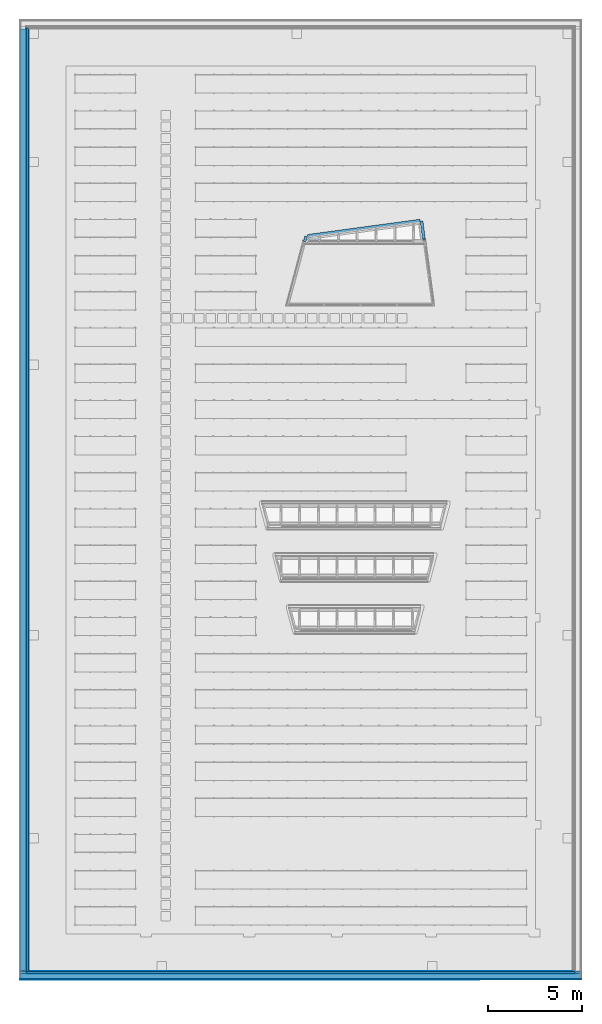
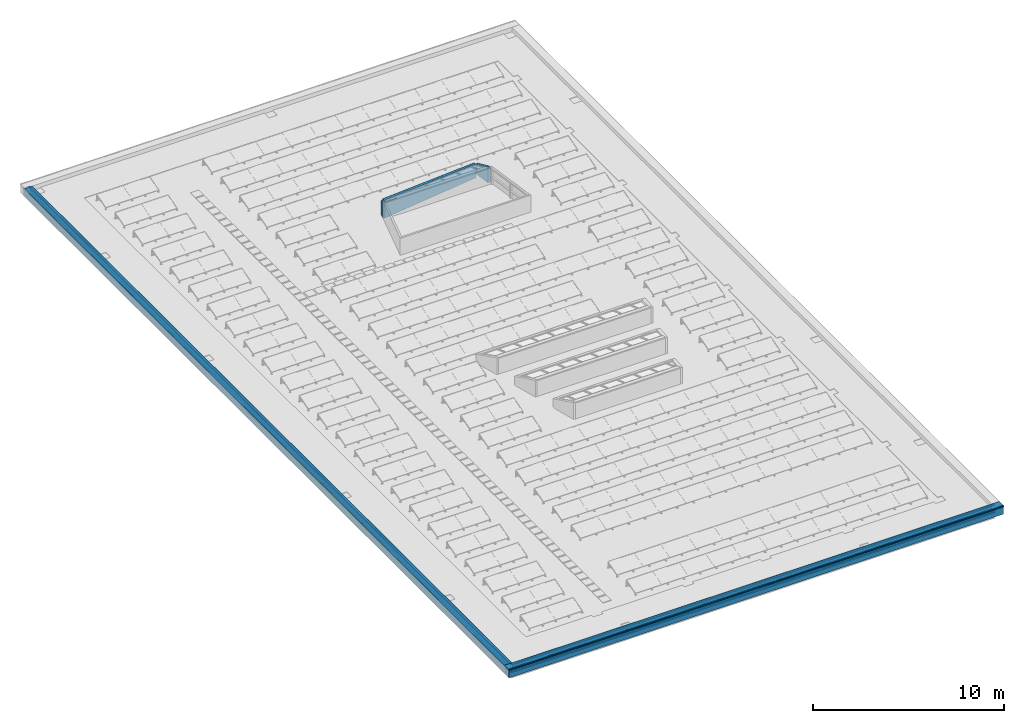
# One storey, part 8 of 20: 17 building element parts, 3 walls, 1 plate, 3 openings, 3 elements without a shape of their own.
"""IFC2X3 building model written with IfcOpenShell, lengths in millimetres."""

from ifc_helpers import new_model, entity, si_unit, converted_unit, derived_unit, money_unit, direction, frame, origin_with_axes, place, context, subcontext, project, spatial, faceted_brep, material, type_object, element, aggregate, save


model = new_model("IFC2X3")

# Units and contexts
model_context = context("Model", 3, precision=0.01, world=origin_with_axes(), true_north=direction((0.0, 1.0)))
plan_context = context("Plan", 3, precision=0.01, world=origin_with_axes(), true_north=direction((0.0, 1.0)))
body_context = subcontext(model_context, "Body", "Model", "MODEL_VIEW")
ifc_project = project(units=[si_unit("LENGTHUNIT", "METRE", prefix="MILLI"), si_unit("AREAUNIT", "SQUARE_METRE"), si_unit("VOLUMEUNIT", "CUBIC_METRE"), converted_unit("PLANEANGLEUNIT", "DEGREE", entity("IfcPlaneAngleMeasure", 0.0174532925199), si_unit("PLANEANGLEUNIT", "RADIAN"), dimensions=[0, 0, 0, 0, 0, 0, 0]), si_unit("SOLIDANGLEUNIT", "STERADIAN"), money_unit("EUR"), converted_unit("TIMEUNIT", "Year", entity("IfcTimeMeasure", 31556926.0), si_unit("TIMEUNIT", "SECOND"), dimensions=[0, 0, 1, 0, 0, 0, 0]), si_unit("MASSUNIT", "GRAM", prefix="KILO"), si_unit("THERMODYNAMICTEMPERATUREUNIT", "DEGREE_CELSIUS"), si_unit("LUMINOUSINTENSITYUNIT", "LUMEN"), si_unit("ENERGYUNIT", "JOULE", prefix="MEGA"), derived_unit("THERMALCONDUCTANCEUNIT", [(si_unit("POWERUNIT", "WATT"), 1), (si_unit("LENGTHUNIT", "METRE"), -1), (si_unit("THERMODYNAMICTEMPERATUREUNIT", "KELVIN"), -1)]), derived_unit("SPECIFICHEATCAPACITYUNIT", [(si_unit("ENERGYUNIT", "JOULE"), 1), (si_unit("MASSUNIT", "GRAM", prefix="KILO"), -1), (si_unit("THERMODYNAMICTEMPERATUREUNIT", "KELVIN"), -1)]), derived_unit("MASSDENSITYUNIT", [(si_unit("MASSUNIT", "GRAM", prefix="KILO"), 1), (si_unit("VOLUMEUNIT", "CUBIC_METRE"), -1)])], contexts=[model_context, plan_context])

# Site, building, storey
site_placement = place(None, origin_with_axes())
site = spatial("IfcSite", under=ifc_project, at=site_placement, Name="Site", CompositionType="ELEMENT")
building_placement = place(site_placement, origin_with_axes())
building = spatial("IfcBuilding", under=site, at=building_placement, Name="Naam gebouw", CompositionType="ELEMENT")
storey_placement = place(building_placement, frame((0.0, 0.0, 7920.0), z_axis=(0.0, 0.0, 1.0), x_axis=(1.0, 0.0, 0.0)))
storey = spatial("IfcBuildingStorey", under=building, at=storey_placement, Name="2e verdieping", CompositionType="ELEMENT", Elevation=7920.0)

# Curtain wall, plate
curtain_wall_type = type_object("IfcCurtainWallType", Name="Curtain Wall Type", PredefinedType="NOTDEFINED")
curtain_wall_placement = place(storey_placement, frame((19106.1234546, 39361.8774302, 819.822664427), z_axis=(0.0, 0.0, 1.0), x_axis=(1.0, 0.0, 0.0)))
curtain_wall = element("IfcCurtainWall", 1, at=curtain_wall_placement, inside=storey, type_object=curtain_wall_type, Name="21_Vliesgevel_Wand-x")
ifc_material_1 = material(Name="Glas")
plate_type = type_object("IfcPlateType", Name="Main Panel 634 x 244 x 20", PredefinedType="CURTAIN_PANEL")
plate_placement = place(curtain_wall_placement, frame((-3838.29655747, -258.845975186, 330.7904772), z_axis=(0.0, 0.0, 1.0), x_axis=(-1.0, 0.0, 0.0)))
plate = element("IfcPlate", 2, at=plate_placement, type_object=plate_type, material=ifc_material_1, Name="_Vliesgevel - paneel_Paneel-x", ObjectType="CURTAIN_PANEL", context=body_context, shape_type="Brep", body=[
    faceted_brep([(-328.296558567, 97.3713573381, 24.7984980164), (-328.296558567, 90.5309544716, 43.5923504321), (306.061137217, 90.5309544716, 43.5923504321), (306.061137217, 97.3713573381, 24.7984980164), (-328.296558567, -132.348207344, -58.8125857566), (-328.296558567, -139.188610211, -40.0187333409), (266.078231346, -58.6873587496, -10.7186739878), (266.078231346, -51.8469558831, -29.5125264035)], [[[0, 1, 2, 3]], [[4, 5, 1, 0]], [[1, 5, 6, 2]], [[3, 2, 6, 7]], [[0, 3, 7, 4]], [[7, 6, 5, 4]]]),
])
aggregate(curtain_wall, [plate])

# Wall, opening
ifc_material_2 = material(Name="_TenW_24_Hout - Multiplex")
wall_type_1 = type_object("IfcWallType", Name="_TenW_24_Hout - Multiplex 150", PredefinedType="NOTDEFINED")
wall_1_placement = place(storey_placement, frame((20936.9983091, 40136.1170158, 0.0), z_axis=(0.0, 0.0, 1.0), x_axis=(-0.990952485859, -0.134213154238, 0.0)))
wall_1 = element("IfcWall", 3, at=wall_1_placement, inside=storey, type_object=wall_type_1, material=ifc_material_2, Name="21_Wand_Wand-x", context=body_context, shape_type="Brep", body=[
    faceted_brep([(0.0, 0.0, 879.454298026), (0.0, 150.0, 879.454298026), (0.0, 150.0, 0.0), (-7.09540870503e-07, 123.260462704, 0.0), (-7.09540870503e-07, 123.260462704, 245.0), (0.0, 0.0, 245.0), (6046.07914793, 150.0, 1167.16690939), (6046.07914793, 0.0, 1167.16690939), (6046.07914793, 150.0, 0.0), (6046.07914793, 123.260478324, 0.0), (6046.07914793, 123.260478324, 245.0), (6046.07914793, 0.0, 245.0)], [[[0, 1, 2, 3, 4, 5]], [[6, 1, 0, 7]], [[1, 6, 8, 2]], [[9, 3, 2, 8]], [[10, 4, 3, 9]], [[5, 4, 10, 11]], [[7, 0, 5, 11]], [[6, 7, 11, 10, 9, 8]]]),
])
opening_1_placement = place(wall_1_placement, frame((4870.53605598, 0.0, 851.085276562), z_axis=(0.0, 0.0, 1.0), x_axis=(1.0, 0.0, 0.0)))
element("IfcOpeningElement", 4, at=opening_1_placement, cuts=wall_1, Name="31_Raam_-", context=body_context, shape_type="Brep", body=[
    faceted_brep([(5466.69118562, 150.0, 520.282966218), (-5466.69118562, 150.0, 520.282966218), (-5466.69118562, -150.0, 520.282966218), (5466.69118562, -150.0, 520.282966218), (-5466.69118562, 150.0, 0.0), (-5466.69118562, -150.0, 0.0)], [[[0, 1, 2, 3]], [[0, 4, 1]], [[1, 4, 5, 2]], [[3, 2, 5]], [[4, 0, 3, 5]]]),
])

wall_2_placement = place(storey_placement, frame((20951.3858861, 40029.8874494, 0.0), z_axis=(0.0, 0.0, 1.0), x_axis=(0.134213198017, -0.990952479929, 0.0)))
wall_2 = element("IfcWall", 5, at=wall_2_placement, inside=storey, type_object=wall_type_1, material=ifc_material_2, Name="21_Wand_Wand-x", context=body_context, shape_type="Brep", body=[
    faceted_brep([(0.0, 150.0, 854.429032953), (969.751382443, 150.000001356, 1206.58182347), (1095.73640818, 149.999999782, 1206.58182347), (1095.73640183, 150.0, 245.0), (16.0610139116, 150.0, 245.0), (0.0, 150.0, 245.0), (969.751382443, 1.10208375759e-06, 1206.58182347), (0.0, 0.0, 854.429032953), (1075.42062098, -2.17784901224e-07, 1206.58182347), (1075.42070551, 0.0, 245.0), (16.0610076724, 0.0, 245.0), (0.0, 0.0, 245.0)], [[[0, 1, 2, 3, 4, 5]], [[6, 1, 0, 7]], [[1, 6, 8, 2]], [[9, 3, 2, 8]], [[5, 4, 3, 9, 10, 11]], [[7, 0, 5, 11]], [[6, 7, 11, 10, 9, 8]]]),
])
opening_2_placement = place(wall_2_placement, frame((633.916963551, 0.0, 854.429032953), z_axis=(0.0, 0.0, 1.0), x_axis=(1.0, 0.0, 0.0)))
element("IfcOpeningElement", 6, at=opening_2_placement, cuts=wall_2, Name="31_Raam_-", context=body_context, shape_type="Brep", body=[
    faceted_brep([(633.916963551, 150.0, 460.397647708), (-633.916963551, 150.0, 460.397647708), (-633.916963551, -150.0, 460.397647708), (633.916963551, -150.0, 460.397647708), (-633.916963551, 150.0, 0.0), (-633.916963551, -150.0, 0.0)], [[[0, 1, 2, 3]], [[0, 4, 1]], [[1, 4, 5, 2]], [[3, 2, 5]], [[4, 0, 3, 5]]]),
])

wall_3_placement = place(storey_placement, frame((14960.0087247, 39218.4240961, 0.0), z_axis=(0.0, 0.0, 1.0), x_axis=(-0.238349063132, -0.971179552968, 0.0)))
wall_3 = element("IfcWall", 7, at=wall_3_placement, inside=storey, type_object=wall_type_1, material=ifc_material_2, Name="21_Wand_Wand-x", context=body_context, shape_type="Brep", body=[
    faceted_brep([(0.0, -150.0, 1152.54957168), (0.0, 0.0, 1152.54957168), (0.0, 0.0, 245.0), (0.0, -150.0, 245.0), (149.979487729, -3.17688275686e-06, 1206.58182507), (149.979485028, -150.000003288, 1206.5818241), (246.326608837, -2.88526535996e-06, 1206.58182761), (261.771757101, 4.20342871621e-07, 1206.58182347), (261.77175148, 0.0, 1000.00000178), (261.771753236, 0.0, 999.846726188), (261.771753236, 0.0, 950.000004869), (261.771746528, -5.86197757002e-10, 949.846725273), (261.771757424, 0.0, 289.999999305), (261.771753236, 0.0, 289.846727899), (261.771849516, 0.0, 245.0), (298.585089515, -150.0, 245.0), (298.585089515, -150.0, 289.846727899), (298.585093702, -150.0, 289.999999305), (298.585082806, -150.000000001, 949.846725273), (298.585089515, -150.0, 950.000004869), (298.585089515, -150.0, 999.846726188), (298.585087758, -150.0, 1000.00000178), (298.585093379, -149.99999958, 1206.58182347), (283.139945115, -150.000002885, 1206.58182761)], [[[0, 1, 2, 3]], [[4, 1, 0, 5]], [[1, 4, 6, 7, 8, 9, 10, 11, 12, 13, 14, 2]], [[3, 2, 14, 15]], [[5, 0, 3, 15, 16, 17, 18, 19, 20, 21, 22, 23]], [[4, 5, 23, 6]], [[7, 6, 23, 22]], [[8, 7, 22, 21]], [[9, 8, 21, 20]], [[10, 9, 20, 19]], [[11, 10, 19, 18]], [[12, 11, 18, 17]], [[13, 12, 17, 16]], [[15, 14, 13, 16]]]),
])
opening_3_placement = place(wall_3_placement, frame((327.401780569, 0.0, 1000.88892137), z_axis=(0.0, 0.0, 1.0), x_axis=(1.0, 0.0, 0.0)))
element("IfcOpeningElement", 8, at=opening_3_placement, cuts=wall_3, Name="31_Raam_-", context=body_context, shape_type="Brep", body=[
    faceted_brep([(748.372316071, 150.0, 539.223639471), (-748.372316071, 150.0, 539.223639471), (-748.372316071, -150.0, 539.223639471), (748.372316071, -150.0, 539.223639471), (-748.372316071, 150.0, 0.0), (-748.372316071, -150.0, 0.0)], [[[0, 1, 2, 3]], [[0, 4, 1]], [[1, 4, 5, 2]], [[3, 2, 5]], [[4, 0, 3, 5]]]),
])

# Wall, building element parts
wall_type_2 = type_object("IfcWallType", Name="_TenW_27_dakrand_01 473 x 542", PredefinedType="NOTDEFINED")
wall_4_placement = place(storey_placement, frame((0.0, 50400.0, 0.0), z_axis=(0.0, 0.0, 1.0), x_axis=(0.0, -1.0, 0.0)))
wall_4 = element("IfcWall", 9, at=wall_4_placement, inside=storey, type_object=wall_type_2, Name="21_Wand_Wand-x")
ifc_material_3 = material(Name="Membraan - waterdicht")
building_element_part_1_placement = place(wall_4_placement, origin_with_axes())
building_element_part_1 = element("IfcBuildingElementPart", 10, at=building_element_part_1_placement, material=ifc_material_3, Name="Membraan - waterdicht", context=body_context, shape_type="Brep", body=[
    faceted_brep([(50260.5707694, 139.429230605, 245.0), (139.429230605, 139.429230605, 245.0), (139.429230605, 139.429230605, 530.388913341), (50260.5707694, 139.429230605, 530.388913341), (139.429230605, 138.429230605, 245.0), (50260.5707694, 138.429230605, 245.0), (139.429230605, 138.429230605, 529.388913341), (139.429230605, -324.789202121, 529.388913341), (139.429230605, -324.789202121, 530.388913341), (50260.5707694, -324.789202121, 530.388913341), (50260.5707694, -324.789202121, 529.388913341), (50260.5707694, 138.429230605, 529.388913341)], [[[0, 1, 2, 3]], [[4, 1, 0, 5]], [[1, 4, 6, 7, 8, 2]], [[3, 2, 8, 9]], [[5, 0, 3, 9, 10, 11]], [[4, 5, 11, 6]], [[7, 6, 11, 10]], [[8, 7, 10, 9]]]),
])
ifc_material_4 = material(Name="Hout - Multiplex")
building_element_part_2_placement = place(wall_4_placement, origin_with_axes())
building_element_part_2 = element("IfcBuildingElementPart", 11, at=building_element_part_2_placement, material=ifc_material_4, Name="Hout - Multiplex", context=body_context, shape_type="Brep", body=[
    faceted_brep([(50262.0239191, 137.976078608, 240.0), (137.976080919, 137.976080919, 240.0), (137.976081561, 137.976079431, 509.366893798), (50262.0239184, 137.976077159, 509.366893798), (137.976081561, 119.976074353, 240.0), (50262.0239184, 119.976074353, 240.0), (137.976081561, 119.976072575, 471.373644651), (137.976081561, 119.976081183, 509.060682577), (137.976081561, 119.976080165, 509.366893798), (50262.0239184, 119.976080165, 509.366893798), (50262.0239184, 119.976081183, 509.060682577), (50262.0239184, 119.976072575, 471.373644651)], [[[0, 1, 2, 3]], [[4, 1, 0, 5]], [[1, 4, 6, 7, 8, 2]], [[3, 2, 8, 9]], [[5, 0, 3, 9, 10, 11]], [[4, 5, 11, 6]], [[7, 6, 11, 10]], [[9, 8, 7, 10]]]),
])
ifc_material_5 = material(Name="Hout C")
building_element_part_3_placement = place(wall_4_placement, origin_with_axes())
building_element_part_3 = element("IfcBuildingElementPart", 12, at=building_element_part_3_placement, material=ifc_material_5, Name="Hout C", context=body_context, shape_type="Brep", body=[
    faceted_brep([(119.976072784, 18.5136338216, -3.91967791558e-06), (50280.0239272, 18.5136338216, -3.91967791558e-06), (50280.0239279, 18.4936521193, 37.9754175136), (119.976072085, 18.4936521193, 37.9754175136), (50280.0239272, 119.976072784, -3.91967791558e-06), (119.976072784, 119.976072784, -3.91967791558e-06), (50280.0239279, 119.976072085, 37.9754175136), (119.976072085, 119.976072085, 37.9754175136)], [[[0, 1, 2, 3]], [[4, 1, 0, 5]], [[6, 2, 1, 4]], [[7, 3, 2, 6]], [[5, 0, 3, 7]], [[7, 6, 4, 5]]]),
])
building_element_part_4_placement = place(wall_4_placement, origin_with_axes())
building_element_part_4 = element("IfcBuildingElementPart", 13, at=building_element_part_4_placement, material=ifc_material_5, Name="Hout C", context=body_context, shape_type="Brep", body=[
    faceted_brep([(50280.1687712, 17.9082871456, 471.373652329), (119.831228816, 17.9082870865, 471.373648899), (119.831228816, 119.831228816, 471.373652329), (50280.1687712, 119.831228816, 471.373652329), (50280.1687668, 17.9082863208, 509.06068655), (50280.1687648, 17.9082863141, 509.366894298), (50382.0917137, 17.908286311, 509.508760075), (17.9082862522, 17.908286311, 509.508760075), (119.831235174, 17.9082863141, 509.366894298), (119.831233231, 17.9082863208, 509.06068655), (119.831233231, 119.831233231, 509.06068655), (50280.1687668, 119.831233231, 509.06068655), (50280.1687648, 119.831235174, 509.366893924), (119.831235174, 119.831235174, 509.366894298)], [[[0, 1, 2, 3]], [[0, 4, 5, 6, 7, 8, 9, 1]], [[1, 9, 10, 2]], [[11, 3, 2, 10]], [[4, 0, 3, 11]], [[5, 4, 11, 12]], [[6, 5, 12]], [[6, 12, 13, 7]], [[8, 7, 13]], [[9, 8, 13, 10]], [[11, 10, 13, 12]]]),
])
building_element_part_5_placement = place(wall_4_placement, origin_with_axes())
building_element_part_5 = element("IfcBuildingElementPart", 14, at=building_element_part_5_placement, material=ifc_material_4, Name="Hout - Multiplex", context=body_context, shape_type="Brep", body=[
    faceted_brep([(50382.0917117, -0.091163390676, 509.060686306), (50382.0917134, -0.0916948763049, 509.483710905), (17.9082866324, -0.091694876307, 509.483710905), (17.9082883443, -0.0911633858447, 509.060682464), (50382.0917117, 1.66490503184e-06, 509.060682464), (50382.0917192, 1.66497075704e-06, 471.373647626), (50382.0917192, 17.9082808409, 471.373647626), (50382.0917137, 17.9082884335, 509.508760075), (17.9082862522, 17.9082884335, 509.508760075), (17.9082883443, 1.66489578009e-06, 509.060682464), (17.9082808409, 17.9082808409, 471.373647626), (17.9082808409, 1.58033764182e-06, 471.373647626)], [[[0, 1, 2, 3]], [[0, 4, 5, 6, 7, 1]], [[2, 1, 7, 8]], [[9, 3, 2, 8, 10, 11]], [[4, 0, 3, 9]], [[11, 5, 4, 9]], [[5, 11, 10, 6]], [[7, 6, 10, 8]]]),
    faceted_brep([(18.5136353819, 0.546496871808, 6.65253132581e-05), (50381.4863646, 0.546496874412, 6.65253132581e-05), (50381.5063485, 0.498929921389, 37.9754133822), (18.4936515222, 0.498929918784, 37.9754133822), (50381.4863646, 18.5136353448, 6.65253132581e-05), (18.5136353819, 18.5136353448, 6.65253132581e-05), (50381.5063485, 18.4936515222, 37.9754133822), (18.4936515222, 18.4936515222, 37.9754133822)], [[[0, 1, 2, 3]], [[4, 1, 0, 5]], [[6, 2, 1, 4]], [[7, 3, 2, 6]], [[5, 0, 3, 7]], [[7, 6, 4, 5]]]),
])
ifc_material_6 = material(Name="Isolatie - Glaswol zacht")
building_element_part_6_placement = place(wall_4_placement, origin_with_axes())
building_element_part_6 = element("IfcBuildingElementPart", 15, at=building_element_part_6_placement, material=ifc_material_6, Name="Isolatie - Glaswol zacht", context=body_context, shape_type="Brep", body=[
    faceted_brep([(50280.0239256, 119.976074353, 240.0), (119.976074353, 119.976074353, 240.0), (119.976074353, 119.976074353, 471.373649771), (50280.0239256, 119.976074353, 471.373649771), (119.976074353, 0.0, 240.0), (50280.0239256, 0.0, 240.0), (119.976074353, 1.01673358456e-07, 471.373649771), (119.976074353, 119.831234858, 471.373649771), (50280.0239256, 119.831234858, 471.373649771), (50280.0239256, 1.0167546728e-07, 471.373649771)], [[[0, 1, 2, 3]], [[4, 1, 0, 5]], [[1, 4, 6, 7, 2]], [[2, 7, 8, 3]], [[5, 0, 3, 8, 9]], [[4, 5, 9, 6]], [[8, 7, 6, 9]]]),
])
building_element_part_7_placement = place(wall_4_placement, origin_with_axes())
building_element_part_7 = element("IfcBuildingElementPart", 16, at=building_element_part_7_placement, material=ifc_material_6, Name="Isolatie - Glaswol zacht", context=body_context, shape_type="Brep", body=[
    faceted_brep([(50400.0, -304.000000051, -3.91967791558e-06), (50399.9999999, -304.000000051, 37.9754150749), (50400.0, -304.000000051, 509.060682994), (0.0, -304.000000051, 509.060682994), (1.01678665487e-07, -304.000000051, 37.9754150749), (0.0, -304.0, -3.91967791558e-06), (50399.9999999, 1.0168081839e-07, 37.9754150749), (50400.0, 0.0, -3.91967791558e-06), (50400.0, 0.0, 509.060682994), (0.0, 0.0, 509.060682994), (1.01678665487e-07, 1.01673336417e-07, 37.9754150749), (0.0, 0.0, -3.91967791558e-06)], [[[0, 1, 2, 3, 4, 5]], [[6, 1, 0, 7]], [[8, 2, 1, 6]], [[9, 3, 2, 8]], [[10, 4, 3, 9]], [[10, 11, 5, 4]], [[0, 5, 11, 7]], [[7, 11, 10, 6]], [[9, 8, 6, 10]]]),
])
aggregate(wall_4, [building_element_part_1, building_element_part_2, building_element_part_3, building_element_part_4, building_element_part_5, building_element_part_6, building_element_part_7])

wall_5_placement = place(storey_placement, origin_with_axes())
wall_5 = element("IfcWall", 17, at=wall_5_placement, inside=storey, type_object=wall_type_2, Name="21_Wand_Wand-x")
building_element_part_8_placement = place(wall_5_placement, origin_with_axes())
building_element_part_8 = element("IfcBuildingElementPart", 18, at=building_element_part_8_placement, material=ifc_material_3, Name="Membraan - waterdicht", context=body_context, shape_type="Brep", body=[
    faceted_brep([(29061.5707715, 138.429230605, 245.0), (29061.5707715, 139.429230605, 245.0), (29061.5707715, 139.429230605, 529.388912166), (29061.5707715, 138.429230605, 529.388912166), (138.42922846, 139.429230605, 245.0), (138.42922846, 138.429230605, 245.0), (138.42922846, 139.429230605, 529.388912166), (-324.789198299, 139.429230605, 529.388912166), (-324.789198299, 139.429230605, 530.388913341), (29524.7891983, 139.429230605, 530.388913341), (29524.7891983, 139.429230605, 529.388912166), (29524.7891983, 138.429230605, 529.388912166), (138.42922846, 138.429230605, 529.388912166), (-324.789198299, 138.429230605, 529.388912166), (-324.789198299, -324.789202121, 529.388913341), (-324.789198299, -324.789202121, 530.388913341), (29524.7891983, -324.789202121, 530.388913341), (29524.7891983, -324.789202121, 529.388913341)], [[[0, 1, 2, 3]], [[4, 1, 0, 5]], [[1, 4, 6, 7, 8, 9, 10, 2]], [[11, 3, 2, 10]], [[5, 0, 3, 12]], [[4, 5, 12, 6]], [[6, 12, 13, 7]], [[13, 14, 15, 8, 7]], [[9, 8, 15, 16]], [[9, 16, 17, 11, 10]], [[14, 13, 12, 3, 11, 17]], [[16, 15, 14, 17]]]),
])
building_element_part_9_placement = place(wall_5_placement, origin_with_axes())
building_element_part_9 = element("IfcBuildingElementPart", 19, at=building_element_part_9_placement, material=ifc_material_4, Name="Hout - Multiplex", context=body_context, shape_type="Brep", body=[
    faceted_brep([(29080.0239264, 119.976074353, 240.0), (29080.0239264, 137.976077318, 240.0), (29080.0239256, 137.97607732, 471.373649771), (29080.0239256, 119.976072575, 471.373647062), (119.976073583, 137.976079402, 240.0), (119.976073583, 119.976074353, 240.0), (119.976074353, 137.97607732, 471.373649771), (119.976084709, 137.976077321, 509.060682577), (119.976081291, 137.976079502, 509.366891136), (29080.0239187, 137.97607754, 509.366891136), (29080.0239153, 137.976077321, 509.060682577), (29080.0239153, 119.976081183, 509.060682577), (119.976074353, 119.976072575, 471.373649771), (119.976084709, 119.976081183, 509.060682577), (119.976081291, 119.976080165, 509.366891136), (29080.0239187, 119.976080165, 509.366891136)], [[[0, 1, 2, 3]], [[4, 1, 0, 5]], [[1, 4, 6, 7, 8, 9, 10, 2]], [[10, 11, 3, 2]], [[5, 0, 3, 12]], [[4, 5, 12, 6]], [[6, 12, 13, 7]], [[8, 7, 13, 14]], [[9, 8, 14, 15]], [[15, 11, 10, 9]], [[11, 13, 12, 3]], [[15, 14, 13, 11]]]),
])
building_element_part_10_placement = place(wall_5_placement, origin_with_axes())
building_element_part_10 = element("IfcBuildingElementPart", 20, at=building_element_part_10_placement, material=ifc_material_5, Name="Hout C", context=body_context, shape_type="Brep", body=[
    faceted_brep([(18.5136353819, 119.976072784, 6.65253132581e-05), (18.5136353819, 18.5136337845, 6.65253132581e-05), (18.4936515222, 18.4936521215, 37.9754133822), (18.4936515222, 119.976072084, 37.9754133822), (29181.4863646, 119.976072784, 6.65253132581e-05), (29181.4863646, 18.5136337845, 6.65253132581e-05), (29181.5063485, 18.4936521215, 37.9754133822), (29181.5063485, 119.976072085, 37.9754133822)], [[[0, 1, 2, 3]], [[4, 5, 1, 0]], [[6, 2, 1, 5]], [[7, 3, 2, 6]], [[4, 0, 3, 7]], [[6, 5, 4, 7]]]),
])
building_element_part_11_placement = place(wall_5_placement, origin_with_axes())
building_element_part_11 = element("IfcBuildingElementPart", 21, at=building_element_part_11_placement, material=ifc_material_5, Name="Hout C", context=body_context, shape_type="Brep", body=[
    faceted_brep([(17.9082808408, 17.9082870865, 471.373648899), (17.9082808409, 119.831228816, 471.373652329), (29182.0917192, 119.831228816, 471.373652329), (29182.0917192, 17.9082871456, 471.373648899), (17.9082862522, 17.9082863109, 509.508760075), (17.9082884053, 119.831235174, 509.366893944), (17.9082883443, 119.831233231, 509.060682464), (29182.0917117, 119.831233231, 509.060682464), (29182.0917137, 17.9082863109, 509.508760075), (29182.0917116, 119.831235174, 509.366893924)], [[[0, 1, 2, 3]], [[0, 4, 5, 6, 1]], [[1, 6, 7, 2]], [[8, 3, 2, 7, 9]], [[4, 0, 3, 8]], [[5, 4, 8, 9]], [[6, 5, 9, 7]]]),
])
building_element_part_12_placement = place(wall_5_placement, origin_with_axes())
building_element_part_12 = element("IfcBuildingElementPart", 22, at=building_element_part_12_placement, material=ifc_material_4, Name="Hout - Multiplex", context=body_context, shape_type="Brep", body=[
    faceted_brep([(8.11839484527e-09, 1.58033926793e-06, 471.373647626), (8.11839484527e-09, 17.9082808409, 471.373647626), (29200.0, 17.9082808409, 471.373647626), (29200.0, 1.58033926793e-06, 471.373647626), (0.0, 17.9082883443, 509.060682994), (0.0, 1.66486898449e-06, 509.060682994), (-0.0911615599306, 17.9082883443, 509.060678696), (-0.0916934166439, 17.9082884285, 509.483711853), (17.9082862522, 17.9082884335, 509.508760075), (29182.0917137, 17.9082884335, 509.508760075), (29200.0916934, 17.9082884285, 509.483711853), (29200.0911616, 17.9082883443, 509.060678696), (29200.0, 17.9082883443, 509.060682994), (29200.0, 1.66486898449e-06, 509.060682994), (-0.0911615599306, -0.091163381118, 509.060678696), (29200.0911616, -0.0911633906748, 509.060686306), (-0.0916934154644, -0.0916948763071, 509.483710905), (29200.0916934, -0.0916948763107, 509.483710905)], [[[0, 1, 2, 3]], [[4, 1, 0, 5]], [[1, 4, 6, 7, 8, 9, 10, 11, 12, 2]], [[13, 3, 2, 12]], [[5, 0, 3, 13]], [[14, 6, 4, 5, 13, 12, 11, 15]], [[6, 14, 16, 7]], [[7, 16, 8]], [[16, 17, 9, 8]], [[17, 10, 9]], [[15, 11, 10, 17]], [[16, 14, 15, 17]]]),
    faceted_brep([(0.546497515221, 0.546496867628, 6.88062833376e-05), (0.498926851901, 0.498929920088, 37.9754133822), (0.498926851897, 18.4936515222, 37.9754133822), (0.546497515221, 18.5136353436, 6.88062833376e-05), (29198.5707694, 0.546496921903, -7.59371232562e-07), (29199.4535025, 0.546496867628, 6.88062833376e-05), (29199.5010731, 0.498929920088, 37.9754133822), (29199.5010731, 18.4936515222, 37.9754133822), (29199.4535025, 18.5136353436, 6.88062833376e-05), (29198.5707694, 18.5136353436, 6.88062833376e-05)], [[[0, 1, 2, 3]], [[1, 0, 4, 5, 6]], [[2, 1, 6, 7]], [[3, 2, 7, 8, 9]], [[0, 3, 9, 4]], [[4, 9, 8, 5]], [[5, 8, 7, 6]]]),
])
building_element_part_13_placement = place(wall_5_placement, origin_with_axes())
building_element_part_13 = element("IfcBuildingElementPart", 23, at=building_element_part_13_placement, material=ifc_material_6, Name="Isolatie - Glaswol zacht", context=body_context, shape_type="Brep", body=[
    faceted_brep([(29198.5707694, 119.976074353, 240.0), (0.0, 119.976074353, 240.0), (8.11484213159e-09, 119.976074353, 471.373644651), (29200.0, 119.976074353, 471.373644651), (29199.9999999, 119.976074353, 37.9754133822), (29198.5707694, 119.976074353, 37.9754133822), (29198.5707694, 0.0, 240.0), (0.0, 0.0, 240.0), (8.11484213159e-09, 1.01671413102e-07, 471.373644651), (8.11484213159e-09, 119.831234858, 471.373644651), (29200.0, 119.831234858, 471.373644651), (29200.0, 1.0167851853e-07, 471.373644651), (29199.9999999, 1.0167851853e-07, 37.9754133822), (29199.9999999, 0.498929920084, 37.9754133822), (29198.5707694, 18.4936515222, 37.9754133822), (29198.5707694, 0.498929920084, 37.9754133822), (29198.5707694, 0.0145862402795, 37.9754175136), (29198.5707694, 0.0, 37.9754175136)], [[[0, 1, 2, 3, 4, 5]], [[1, 0, 6, 7]], [[1, 7, 8, 9, 2]], [[9, 10, 3, 2]], [[4, 3, 10, 11, 12, 13]], [[14, 5, 4, 13, 15]], [[0, 5, 14, 15, 16, 17, 6]], [[6, 17, 12, 11, 8, 7]], [[8, 11, 10, 9]], [[16, 15, 13, 12, 17]]]),
])
building_element_part_14_placement = place(wall_5_placement, origin_with_axes())
building_element_part_14 = element("IfcBuildingElementPart", 24, at=building_element_part_14_placement, material=ifc_material_6, Name="Isolatie - Glaswol zacht", context=body_context, shape_type="Brep", body=[
    faceted_brep([(-303.999997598, 0.0, -3.91967791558e-06), (-303.999997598, -304.0, -3.91967791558e-06), (-303.999997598, -304.000000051, 509.060682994), (-303.999997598, 0.0, 509.060682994), (-303.999997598, 1.01674965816e-07, 37.9754133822), (29503.9999976, -304.000000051, -3.91967791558e-06), (29503.9999976, 0.0, -3.91967791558e-06), (29503.9999976, -304.000000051, 509.060682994), (29503.9999976, 0.0, 509.060682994), (29503.9999976, 1.01674965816e-07, 37.9754133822)], [[[0, 1, 2, 3, 4]], [[5, 1, 0, 6]], [[7, 2, 1, 5]], [[3, 2, 7, 8]], [[9, 4, 3, 8]], [[6, 0, 4, 9]], [[8, 7, 5, 6, 9]]]),
])
building_element_part_15_placement = place(wall_5_placement, origin_with_axes())
building_element_part_15 = element("IfcBuildingElementPart", 25, at=building_element_part_15_placement, material=ifc_material_4, Name="Hout - Multiplex", context=body_context, shape_type="Brep", body=[
    faceted_brep([(-323.318135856, -323.318138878, 509.060688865), (-323.318135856, -323.318138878, 526.546857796), (-323.318135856, -277.984633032, 526.546857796), (-323.318135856, 137.976080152, 526.546857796), (-323.318135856, 137.976080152, 509.508762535), (-323.318135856, 17.9091777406, 509.508762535), (-323.318135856, 12.5479572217, 509.50130164), (-323.318135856, -0.091691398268, 509.483713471), (-323.318135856, -0.0911625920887, 509.060678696), (29523.3181359, -323.318138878, 509.060688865), (29523.3181359, -323.318138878, 526.546857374), (29523.3181359, -277.984633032, 526.546857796), (29477.9846239, -277.984633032, 526.54685988), (-277.984623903, -277.984633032, 526.54685988), (-277.984623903, 137.976080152, 526.54685988), (17.9082862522, 137.976080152, 509.508760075), (-277.984633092, 137.976080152, 527.060685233), (29477.9846331, 137.976080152, 527.060685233), (29477.9846239, 137.976080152, 526.54685988), (29523.3181359, 137.976080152, 526.546857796), (29523.3181359, 137.976080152, 509.508762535), (29182.0917137, 137.976080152, 509.508760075), (29080.1687648, 137.976080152, 509.366893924), (119.831235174, 137.976080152, 509.366893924), (17.9082862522, 17.9082862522, 509.508761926), (29182.0917137, 17.9082862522, 509.508761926), (29523.3181359, 17.9091777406, 509.508762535), (29523.3181359, 12.5479572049, 509.50130164), (29523.3181359, -0.091691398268, 509.483713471), (29523.3181359, -0.0911625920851, 509.060678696), (-277.984633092, -277.984633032, 527.060685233), (29477.9846331, -277.984633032, 527.060685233), (29080.3133682, 119.831203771, 509.367076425), (29080.1687648, 119.831234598, 509.366888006), (29080.1687648, 119.976079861, 509.366888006), (119.831235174, 119.976079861, 509.366888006), (119.798708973, 119.976074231, 509.366885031), (119.798442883, 119.831233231, 509.366888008), (119.831235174, 119.831234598, 509.366888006), (29080.1687663, 119.831234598, 509.06068655), (29080.1687663, 119.976079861, 509.06068655), (119.831233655, 119.976079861, 509.06068655), (119.831233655, 119.831234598, 509.06068655)], [[[0, 1, 2, 3, 4, 5, 6, 7, 8]], [[1, 0, 9, 10]], [[1, 10, 11, 12, 13, 2]], [[2, 13, 14, 3]], [[15, 4, 3, 14, 16, 17, 18, 19, 20, 21, 22, 23]], [[5, 4, 15, 24]], [[7, 6, 5, 24, 25, 26, 27, 28]], [[8, 7, 28, 29]], [[0, 8, 29, 9]], [[26, 20, 19, 11, 10, 9, 29, 28, 27]], [[18, 12, 11, 19]], [[30, 13, 12, 31]], [[13, 30, 16, 14]], [[16, 30, 31, 17]], [[31, 12, 18, 17]], [[25, 21, 20, 26]], [[25, 32, 33, 34, 22, 21]], [[34, 35, 36, 23, 22]], [[37, 24, 15, 23, 36, 35, 38]], [[24, 37, 38, 33, 32, 25]], [[39, 40, 34, 33]], [[40, 41, 35, 34]], [[41, 42, 38, 35]], [[38, 42, 39, 33]], [[42, 41, 40, 39]]]),
])
ifc_material_7 = material(Name="_TenW_21_Steen - Baksteen")
building_element_part_16_placement = place(wall_5_placement, origin_with_axes())
building_element_part_16 = element("IfcBuildingElementPart", 26, at=building_element_part_16_placement, material=ifc_material_7, Name="_TenW_21_Steen - Baksteen", context=body_context, shape_type="Brep", body=[
    faceted_brep([(29523.9999953, -323.318138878, 509.060682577), (29523.9999953, -303.999997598, 509.060682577), (-323.999995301, -303.999997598, 509.060682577), (-323.999995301, -323.318138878, 509.060682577), (29524.0000035, -303.999997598, 472.223595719), (29523.9999953, -324.0, 509.060682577), (29524.0000035, -324.0, 472.223595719), (29524.000001, -324.0, -3.91967791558e-06), (29524.000001, -303.999997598, -3.91967791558e-06), (-324.000000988, -303.999997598, -3.91967791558e-06), (-324.000003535, -303.999997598, 472.223595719), (-324.000003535, -324.0, 472.223595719), (-323.999995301, -324.0, 509.060682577), (-324.000000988, -324.0, -3.91967791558e-06)], [[[0, 1, 2, 3]], [[4, 1, 0, 5, 6, 7, 8]], [[1, 4, 8, 9, 10, 2]], [[11, 12, 3, 2, 10, 9, 13]], [[5, 0, 3, 12]], [[6, 5, 12, 11, 13, 7]], [[9, 8, 7, 13]]]),
])
ifc_material_8 = material(Name="Metaal - Aluminium")
building_element_part_17_placement = place(wall_5_placement, origin_with_axes())
building_element_part_17 = element("IfcBuildingElementPart", 27, at=building_element_part_17_placement, material=ifc_material_8, Name="Metaal - Aluminium", context=body_context, shape_type="Brep", body=[
    faceted_brep([(29534.0463164, -332.046318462, 528.546859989), (29534.0463164, -277.984623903, 528.546859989), (-334.046316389, -277.984623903, 528.546859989), (-334.046316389, -332.046318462, 528.546859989), (29534.0463164, -277.984633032, 527.060685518), (29534.0463164, -332.046318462, 540.292434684), (29534.0463164, -323.047997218, 540.292434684), (29534.0463164, -323.047997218, 542.256350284), (29534.0463164, -334.046318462, 542.256350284), (29534.0463164, -334.046318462, 472.223595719), (29534.0463164, -326.081756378, 472.223595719), (29534.0463164, -326.081756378, 474.418140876), (29534.0463164, -332.046318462, 474.418140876), (29534.0463164, -332.046318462, 526.546859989), (29534.0463164, -323.318138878, 526.546857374), (29534.0463164, -277.984623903, 526.546859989), (-334.046316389, -277.984633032, 527.060685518), (-334.046316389, -277.984623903, 526.546859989), (-334.046316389, -323.318138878, 526.546857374), (-334.046316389, -332.046318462, 526.546859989), (-334.046316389, -332.046318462, 474.418140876), (-334.046316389, -326.081756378, 474.418140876), (-334.046316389, -326.081756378, 472.223595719), (-334.046316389, -334.046318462, 472.223595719), (-334.046316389, -334.046318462, 542.256350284), (-334.046316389, -323.047997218, 542.256350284), (-334.046316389, -323.047997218, 540.292434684), (-334.046316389, -332.046318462, 540.292434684)], [[[0, 1, 2, 3]], [[4, 1, 0, 5, 6, 7, 8, 9, 10, 11, 12, 13, 14, 15]], [[1, 4, 16, 2]], [[3, 2, 16, 17, 18, 19, 20, 21, 22, 23, 24, 25, 26, 27]], [[5, 0, 3, 27]], [[6, 5, 27, 26]], [[7, 6, 26, 25]], [[8, 7, 25, 24]], [[9, 8, 24, 23]], [[10, 9, 23, 22]], [[11, 10, 22, 21]], [[12, 11, 21, 20]], [[13, 12, 20, 19]], [[14, 13, 19, 18]], [[15, 14, 18, 17]], [[4, 15, 17, 16]]]),
])
aggregate(wall_5, [building_element_part_8, building_element_part_9, building_element_part_10, building_element_part_11, building_element_part_12, building_element_part_13, building_element_part_14, building_element_part_15, building_element_part_16, building_element_part_17])

save(model, "model.ifc")
